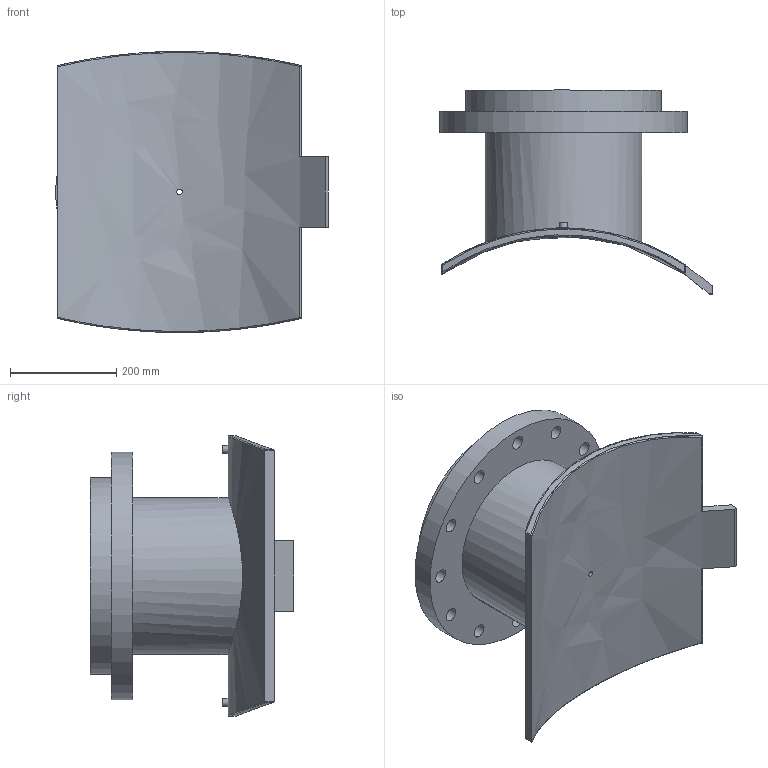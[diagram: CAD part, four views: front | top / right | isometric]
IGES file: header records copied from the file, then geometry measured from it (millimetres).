
Global section: file name: 495903800300T; native system: Autodesk Inventor 2019; preprocessor: unknown; author: KIM; date: 20240403.210520; units: millimetre
Bounding box: 513.75 x 384.15 x 529.74 mm (x, y, z)
Volume: 13887372.3 mm3; surface area: 1299329.3 mm2
Topology: 1 solids, 1 shells, 62 faces, 163 edges, 126 vertices
Faces by surface type: bspline 62
